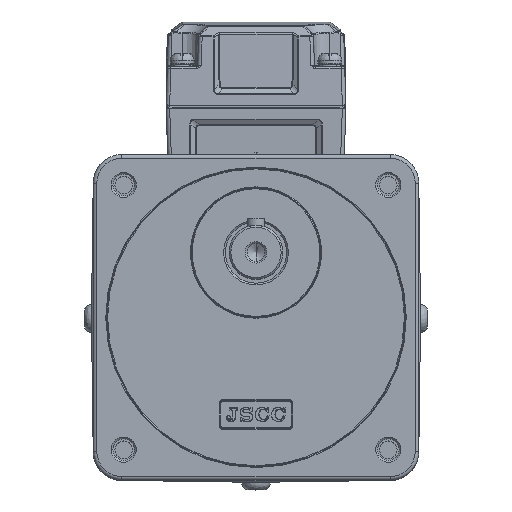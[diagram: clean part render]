
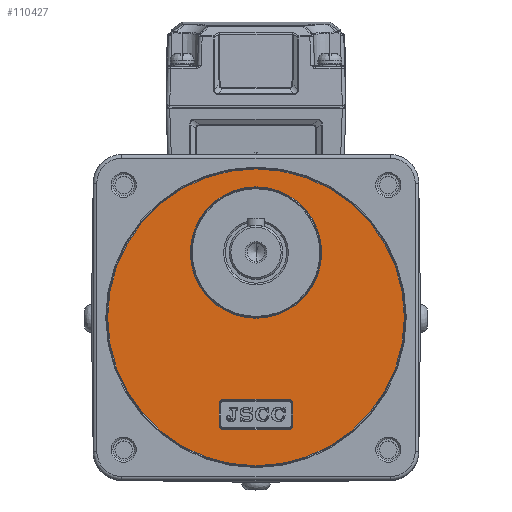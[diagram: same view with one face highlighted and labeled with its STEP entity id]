
A CAD part, top view. The second image highlights one B-rep face of the part: STEP entity #110427.
In plain terms, the highlighted planar face has unit normal (0, 0, 1) as drawn and (1, 0, 0) by its records, which use the part's own axes.
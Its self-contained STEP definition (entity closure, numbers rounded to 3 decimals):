
#110312=CARTESIAN_POINT('',(65.2,0.,0.));
#110313=DIRECTION('',(0.,0.,-1.));
#110314=DIRECTION('',(1.,-0.,0.));
#110315=AXIS2_PLACEMENT_3D('',#110312,#110314,#110313);
#110316=PLANE('',#110315);
#110317=CARTESIAN_POINT('',(65.2,0.,-41.25));
#110318=VERTEX_POINT('',#110317);
#110319=CARTESIAN_POINT('',(65.2,0.,41.25));
#110320=VERTEX_POINT('',#110319);
#110321=CARTESIAN_POINT('',(65.2,0.,0.));
#110322=DIRECTION('',(0.,0.,-1.));
#110323=DIRECTION('',(1.,0.,0.));
#110324=AXIS2_PLACEMENT_3D('',#110321,#110323,#110322);
#110325=CIRCLE('',#110324,41.25);
#110326=EDGE_CURVE('',#110318,#110320,#110325,.T.);
#110327=ORIENTED_EDGE('E1',*,*,#110326,.T.);
#110328=CARTESIAN_POINT('',(65.2,0.,0.));
#110329=DIRECTION('',(0.,0.,1.));
#110330=DIRECTION('',(1.,0.,0.));
#110331=AXIS2_PLACEMENT_3D('',#110328,#110330,#110329);
#110332=CIRCLE('',#110331,41.25);
#110333=EDGE_CURVE('',#110320,#110318,#110332,.T.);
#110334=ORIENTED_EDGE('E2',*,*,#110333,.T.);
#110335=EDGE_LOOP('',(#110327,#110334));
#110336=FACE_OUTER_BOUND('',#110335,.T.);
#110337=CARTESIAN_POINT('',(65.2,24.,10.25));
#110338=VERTEX_POINT('',#110337);
#110339=CARTESIAN_POINT('',(65.2,30.,10.25));
#110340=VERTEX_POINT('',#110339);
#110341=CARTESIAN_POINT('',(65.2,24.,10.25));
#110342=DIRECTION('',(0.,1.,0.));
#110343=VECTOR('',#110342,6.);
#110344=LINE('',#110341,#110343);
#110345=EDGE_CURVE('',#110338,#110340,#110344,.T.);
#110346=ORIENTED_EDGE('E3',*,*,#110345,.T.);
#110347=CARTESIAN_POINT('',(65.2,31.25,9.));
#110348=VERTEX_POINT('',#110347);
#110349=CARTESIAN_POINT('',(65.2,30.,9.));
#110350=DIRECTION('',(0.,0.,1.));
#110351=DIRECTION('',(-1.,0.,0.));
#110352=AXIS2_PLACEMENT_3D('',#110349,#110351,#110350);
#110353=CIRCLE('',#110352,1.25);
#110354=EDGE_CURVE('',#110340,#110348,#110353,.T.);
#110355=ORIENTED_EDGE('E4',*,*,#110354,.T.);
#110356=CARTESIAN_POINT('',(65.2,31.25,-9.));
#110357=VERTEX_POINT('',#110356);
#110358=CARTESIAN_POINT('',(65.2,31.25,9.));
#110359=DIRECTION('',(0.,0.,-1.));
#110360=VECTOR('',#110359,18.);
#110361=LINE('',#110358,#110360);
#110362=EDGE_CURVE('',#110348,#110357,#110361,.T.);
#110363=ORIENTED_EDGE('E5',*,*,#110362,.T.);
#110364=CARTESIAN_POINT('',(65.2,30.,-10.25));
#110365=VERTEX_POINT('',#110364);
#110366=CARTESIAN_POINT('',(65.2,30.,-9.));
#110367=DIRECTION('',(0.,1.,0.));
#110368=DIRECTION('',(-1.,0.,0.));
#110369=AXIS2_PLACEMENT_3D('',#110366,#110368,#110367);
#110370=CIRCLE('',#110369,1.25);
#110371=EDGE_CURVE('',#110357,#110365,#110370,.T.);
#110372=ORIENTED_EDGE('E6',*,*,#110371,.T.);
#110373=CARTESIAN_POINT('',(65.2,24.,-10.25));
#110374=VERTEX_POINT('',#110373);
#110375=CARTESIAN_POINT('',(65.2,30.,-10.25));
#110376=DIRECTION('',(0.,-1.,0.));
#110377=VECTOR('',#110376,6.);
#110378=LINE('',#110375,#110377);
#110379=EDGE_CURVE('',#110365,#110374,#110378,.T.);
#110380=ORIENTED_EDGE('E7',*,*,#110379,.T.);
#110381=CARTESIAN_POINT('',(65.2,22.75,-9.));
#110382=VERTEX_POINT('',#110381);
#110383=CARTESIAN_POINT('',(65.2,24.,-9.));
#110384=DIRECTION('',(0.,0.,-1.));
#110385=DIRECTION('',(-1.,0.,0.));
#110386=AXIS2_PLACEMENT_3D('',#110383,#110385,#110384);
#110387=CIRCLE('',#110386,1.25);
#110388=EDGE_CURVE('',#110374,#110382,#110387,.T.);
#110389=ORIENTED_EDGE('E8',*,*,#110388,.T.);
#110390=CARTESIAN_POINT('',(65.2,22.75,9.));
#110391=VERTEX_POINT('',#110390);
#110392=CARTESIAN_POINT('',(65.2,22.75,-9.));
#110393=DIRECTION('',(0.,0.,1.));
#110394=VECTOR('',#110393,18.);
#110395=LINE('',#110392,#110394);
#110396=EDGE_CURVE('',#110382,#110391,#110395,.T.);
#110397=ORIENTED_EDGE('E9',*,*,#110396,.T.);
#110398=CARTESIAN_POINT('',(65.2,24.,9.));
#110399=DIRECTION('',(0.,-1.,0.));
#110400=DIRECTION('',(-1.,0.,0.));
#110401=AXIS2_PLACEMENT_3D('',#110398,#110400,#110399);
#110402=CIRCLE('',#110401,1.25);
#110403=EDGE_CURVE('',#110391,#110338,#110402,.T.);
#110404=ORIENTED_EDGE('E10',*,*,#110403,.T.);
#110405=EDGE_LOOP('',(#110346,#110355,#110363,#110372,#110380,#110389,#110397,#110404));
#110406=FACE_BOUND('',#110405,.T.);
#110407=CARTESIAN_POINT('',(65.2,-18.,18.25));
#110408=VERTEX_POINT('',#110407);
#110409=CARTESIAN_POINT('',(65.2,-18.,-18.25));
#110410=VERTEX_POINT('',#110409);
#110411=CARTESIAN_POINT('',(65.2,-18.,0.));
#110412=DIRECTION('',(0.,0.,1.));
#110413=DIRECTION('',(-1.,0.,0.));
#110414=AXIS2_PLACEMENT_3D('',#110411,#110413,#110412);
#110415=CIRCLE('',#110414,18.25);
#110416=EDGE_CURVE('',#110408,#110410,#110415,.T.);
#110417=ORIENTED_EDGE('E11',*,*,#110416,.T.);
#110418=CARTESIAN_POINT('',(65.2,-18.,0.));
#110419=DIRECTION('',(0.,0.,-1.));
#110420=DIRECTION('',(-1.,0.,0.));
#110421=AXIS2_PLACEMENT_3D('',#110418,#110420,#110419);
#110422=CIRCLE('',#110421,18.25);
#110423=EDGE_CURVE('',#110410,#110408,#110422,.T.);
#110424=ORIENTED_EDGE('E12',*,*,#110423,.T.);
#110425=EDGE_LOOP('',(#110417,#110424));
#110426=FACE_BOUND('',#110425,.T.);
#110427=ADVANCED_FACE('F1',(#110336,#110406,#110426),#110316,.T.);
